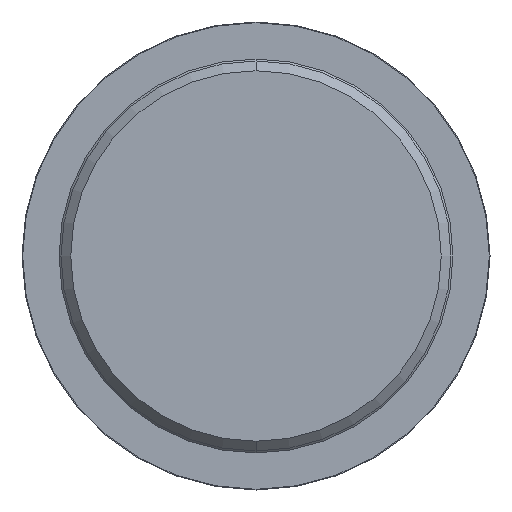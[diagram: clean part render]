
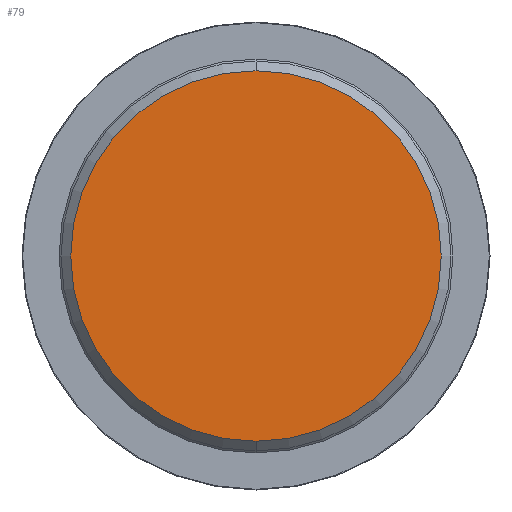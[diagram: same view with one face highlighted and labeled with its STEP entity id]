
A CAD part, front view. The second image highlights one B-rep face of the part: STEP entity #79.
In plain terms, the highlighted planar face has unit normal (0, -1, 0).
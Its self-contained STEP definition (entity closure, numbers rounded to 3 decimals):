
#30 = CARTESIAN_POINT ( 'NONE',  ( 14.25, 0., 0. ) ) ;
#61 = VERTEX_POINT ( 'NONE', #460 ) ;
#71 = DIRECTION ( 'NONE',  ( 0., 1., 0. ) ) ;
#79 = ADVANCED_FACE ( 'NONE', ( #466 ), #612, .F. ) ;
#81 = CIRCLE ( 'NONE', #848, 14.25 ) ;
#127 = AXIS2_PLACEMENT_3D ( 'NONE', #387, #71, #736 ) ;
#231 = EDGE_LOOP ( 'NONE', ( #581, #967 ) ) ;
#242 = DIRECTION ( 'NONE',  ( 0., 0., 1. ) ) ;
#277 = EDGE_CURVE ( 'NONE', #341, #61, #950, .T. ) ;
#341 = VERTEX_POINT ( 'NONE', #371 ) ;
#371 = CARTESIAN_POINT ( 'NONE',  ( 0., 0., -14.25 ) ) ;
#387 = CARTESIAN_POINT ( 'NONE',  ( 0., 0., 0. ) ) ;
#388 = DIRECTION ( 'NONE',  ( 0., 1., 0. ) ) ;
#460 = CARTESIAN_POINT ( 'NONE',  ( 0., 0., 14.25 ) ) ;
#466 = FACE_OUTER_BOUND ( 'NONE', #231, .T. ) ;
#581 = ORIENTED_EDGE ( 'NONE', *, *, #804, .F. ) ;
#612 = PLANE ( 'NONE',  #907 ) ;
#736 = DIRECTION ( 'NONE',  ( 0., 0., 1. ) ) ;
#753 = DIRECTION ( 'NONE',  ( 0., 0., 1. ) ) ;
#764 = CARTESIAN_POINT ( 'NONE',  ( 0., 0., 0. ) ) ;
#804 = EDGE_CURVE ( 'NONE', #61, #341, #81, .T. ) ;
#848 = AXIS2_PLACEMENT_3D ( 'NONE', #764, #910, #242 ) ;
#907 = AXIS2_PLACEMENT_3D ( 'NONE', #30, #388, #753 ) ;
#910 = DIRECTION ( 'NONE',  ( 0., 1., 0. ) ) ;
#950 = CIRCLE ( 'NONE', #127, 14.25 ) ;
#967 = ORIENTED_EDGE ( 'NONE', *, *, #277, .F. ) ;
